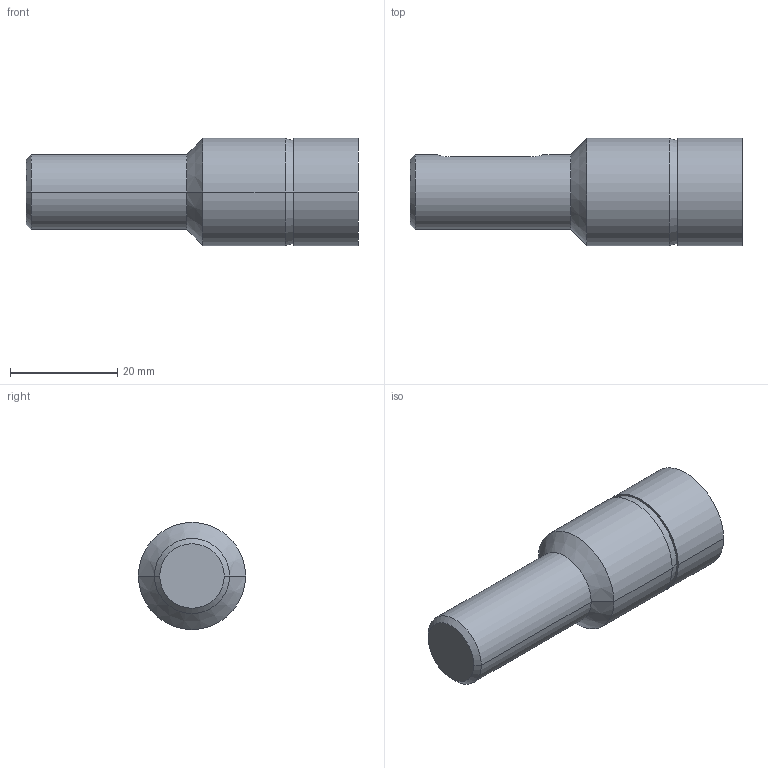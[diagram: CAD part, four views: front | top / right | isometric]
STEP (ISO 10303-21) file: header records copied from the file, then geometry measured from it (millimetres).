
FILE_DESCRIPTION (( 'STEP AP203' ), '1' );
FILE_NAME ('S1-20.STEP', '2002-08-16T10:47:45', ( '.' ), ( '.' ), 'SwSTEP 2.0', 'SolidWorks 2001340', '' );
FILE_SCHEMA (( 'CONFIG_CONTROL_DESIGN' ));
Length unit declared in the file: millimetre
Products named in the file (1): S1-20
Bounding box: 62 x 20 x 20 mm (x, y, z)
Volume: 14105.1 mm3; surface area: 3955.1 mm2
Topology: 1 solids, 1 shells, 20 faces, 43 edges, 26 vertices
Faces by surface type: cylinder 8, plane 6, cone 6
Entity records: 676 total; most frequent: CARTESIAN_POINT 156, DIRECTION 99, ORIENTED_EDGE 86, EDGE_CURVE 43, AXIS2_PLACEMENT_3D 39, VERTEX_POINT 26, LINE 21, VECTOR 21
